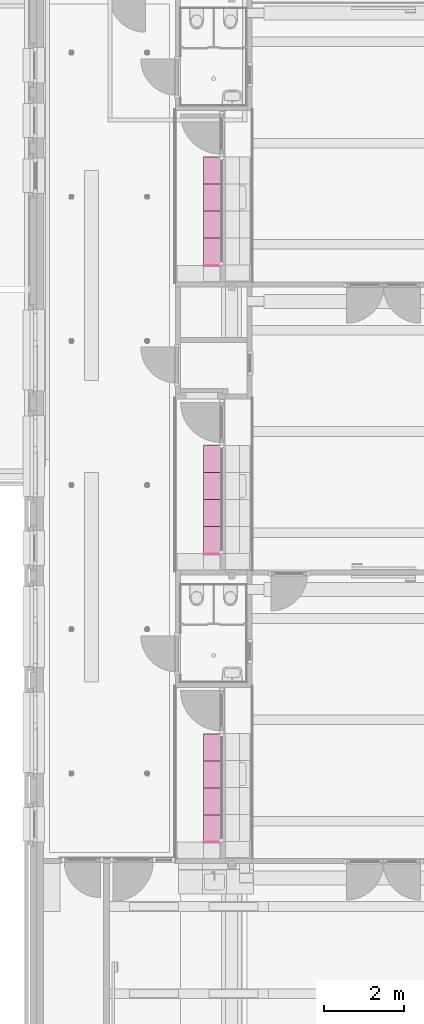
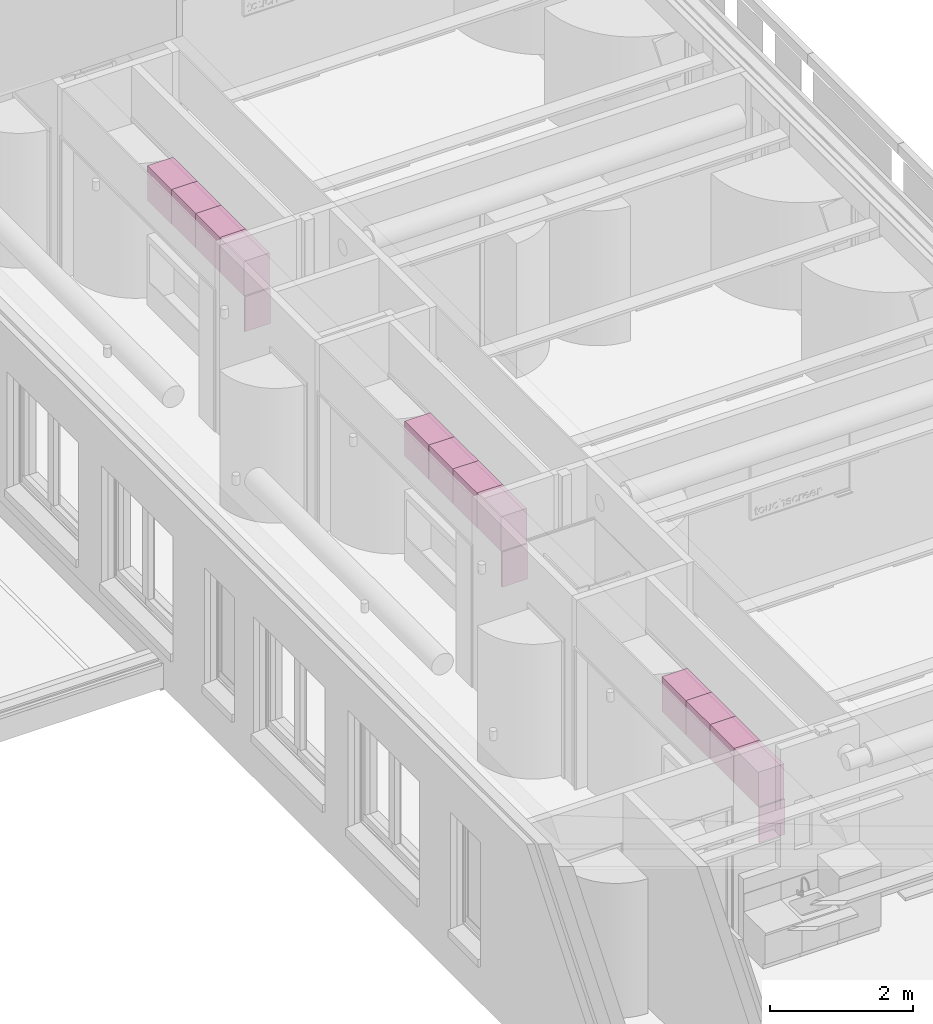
# One storey, part 93 of 128: 15 furnishings.
"""IFC2X3 building model written with IfcOpenShell, lengths in millimetres."""

from ifc_helpers import new_model, entity, si_unit, converted_unit, derived_unit, direction, frame, frame_2d, origin, origin_2d_with_axis, place, context, subcontext, project, spatial, rectangle, extrude, source, transform, mapped, material, type_object, type_shapes, element, save


model = new_model("IFC2X3")

# Units and contexts
model_context = context("Model", 3, precision=0.01, world=origin(), true_north=direction((6.123031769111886e-17, 1.0)))
body_context = subcontext(model_context, "Body", "Model", "MODEL_VIEW")
ifc_project = project(units=[si_unit("LENGTHUNIT", "METRE", prefix="MILLI"), si_unit("AREAUNIT", "SQUARE_METRE"), si_unit("VOLUMEUNIT", "CUBIC_METRE"), converted_unit("PLANEANGLEUNIT", "DEGREE", entity("IfcRatioMeasure", 0.017453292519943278), si_unit("PLANEANGLEUNIT", "RADIAN"), dimensions=[0, 0, 0, 0, 0, 0, 0]), si_unit("MASSUNIT", "GRAM", prefix="KILO"), derived_unit("MASSDENSITYUNIT", [(si_unit("MASSUNIT", "GRAM", prefix="KILO"), 1), (si_unit("LENGTHUNIT", "METRE"), -3)]), derived_unit("IONCONCENTRATIONUNIT", [(si_unit("MASSUNIT", "GRAM", prefix="KILO"), 1), (si_unit("LENGTHUNIT", "METRE"), -3)]), derived_unit("MOMENTOFINERTIAUNIT", [(si_unit("LENGTHUNIT", "METRE"), 4)]), si_unit("TIMEUNIT", "SECOND"), si_unit("FREQUENCYUNIT", "HERTZ"), si_unit("THERMODYNAMICTEMPERATUREUNIT", "DEGREE_CELSIUS"), derived_unit("THERMALTRANSMITTANCEUNIT", [(si_unit("MASSUNIT", "GRAM", prefix="KILO"), 1), (si_unit("THERMODYNAMICTEMPERATUREUNIT", "KELVIN"), -1), (si_unit("TIMEUNIT", "SECOND"), -3)]), derived_unit("THERMALCONDUCTANCEUNIT", [(si_unit("MASSUNIT", "GRAM", prefix="KILO"), 1), (si_unit("THERMODYNAMICTEMPERATUREUNIT", "KELVIN"), -1), (si_unit("TIMEUNIT", "SECOND"), -3), (si_unit("LENGTHUNIT", "METRE"), 1)]), derived_unit("VOLUMETRICFLOWRATEUNIT", [(si_unit("LENGTHUNIT", "METRE"), 3), (si_unit("TIMEUNIT", "SECOND"), -1)]), derived_unit("MASSFLOWRATEUNIT", [(si_unit("MASSUNIT", "GRAM", prefix="KILO"), 1), (si_unit("TIMEUNIT", "SECOND"), -1)]), derived_unit("ROTATIONALFREQUENCYUNIT", [(si_unit("TIMEUNIT", "SECOND"), -1)]), si_unit("ELECTRICCURRENTUNIT", "AMPERE"), si_unit("ELECTRICVOLTAGEUNIT", "VOLT"), si_unit("POWERUNIT", "WATT"), si_unit("FORCEUNIT", "NEWTON", prefix="KILO"), si_unit("ILLUMINANCEUNIT", "LUX"), si_unit("LUMINOUSFLUXUNIT", "LUMEN"), si_unit("LUMINOUSINTENSITYUNIT", "CANDELA"), derived_unit("USERDEFINED", [(si_unit("MASSUNIT", "GRAM", prefix="KILO"), -1), (si_unit("LENGTHUNIT", "METRE"), -2), (si_unit("TIMEUNIT", "SECOND"), 3), (si_unit("LUMINOUSFLUXUNIT", "LUMEN"), 1)]), derived_unit("USERDEFINED", [(si_unit("MASSUNIT", "GRAM", prefix="KILO"), 1), (si_unit("TIMEUNIT", "SECOND"), -3), (si_unit("LENGTHUNIT", "METRE"), 3), (si_unit("ELECTRICCURRENTUNIT", "AMPERE"), -2)]), derived_unit("SOUNDPOWERUNIT", [(si_unit("MASSUNIT", "GRAM", prefix="KILO"), 1), (si_unit("TIMEUNIT", "SECOND"), -3), (si_unit("LENGTHUNIT", "METRE"), 2)]), derived_unit("SOUNDPRESSUREUNIT", [(si_unit("MASSUNIT", "GRAM", prefix="KILO"), 1), (si_unit("LENGTHUNIT", "METRE"), -1), (si_unit("TIMEUNIT", "SECOND"), -2)]), derived_unit("LINEARVELOCITYUNIT", [(si_unit("LENGTHUNIT", "METRE"), 1), (si_unit("TIMEUNIT", "SECOND"), -1)]), si_unit("PRESSUREUNIT", "PASCAL"), derived_unit("USERDEFINED", [(si_unit("MASSUNIT", "GRAM", prefix="KILO"), 1), (si_unit("LENGTHUNIT", "METRE"), -2), (si_unit("TIMEUNIT", "SECOND"), -2)]), derived_unit("LINEARFORCEUNIT", [(si_unit("MASSUNIT", "GRAM", prefix="KILO"), 1), (si_unit("TIMEUNIT", "SECOND"), -2)]), derived_unit("PLANARFORCEUNIT", [(si_unit("MASSUNIT", "GRAM", prefix="KILO"), 1), (si_unit("LENGTHUNIT", "METRE"), -1), (si_unit("TIMEUNIT", "SECOND"), -2)]), derived_unit("SPECIFICHEATCAPACITYUNIT", [(si_unit("THERMODYNAMICTEMPERATUREUNIT", "KELVIN"), -1), (si_unit("LENGTHUNIT", "METRE"), 2), (si_unit("TIMEUNIT", "SECOND"), -2)]), derived_unit("HEATINGVALUEUNIT", [(si_unit("LENGTHUNIT", "METRE"), 2), (si_unit("TIMEUNIT", "SECOND"), -2)]), derived_unit("VAPORPERMEABILITYUNIT", [(si_unit("LENGTHUNIT", "METRE"), -1), (si_unit("TIMEUNIT", "SECOND"), 1)]), derived_unit("DYNAMICVISCOSITYUNIT", [(si_unit("MASSUNIT", "GRAM", prefix="KILO"), 1), (si_unit("TIMEUNIT", "SECOND"), -1), (si_unit("LENGTHUNIT", "METRE"), -1)]), derived_unit("THERMALEXPANSIONCOEFFICIENTUNIT", [(si_unit("THERMODYNAMICTEMPERATUREUNIT", "KELVIN"), -1)]), derived_unit("MODULUSOFELASTICITYUNIT", [(si_unit("MASSUNIT", "GRAM", prefix="KILO"), 1), (si_unit("LENGTHUNIT", "METRE"), -1), (si_unit("TIMEUNIT", "SECOND"), -2)]), derived_unit("ISOTHERMALMOISTURECAPACITYUNIT", [(si_unit("LENGTHUNIT", "METRE"), 3), (si_unit("MASSUNIT", "GRAM", prefix="KILO"), -1)]), derived_unit("MOISTUREDIFFUSIVITYUNIT", [(si_unit("TIMEUNIT", "SECOND"), -1), (si_unit("LENGTHUNIT", "METRE"), 2)])], contexts=[model_context])

# Site, building, storey, space
site_placement = place(None, frame((0.0, 300.0, 0.0)))
site = spatial("IfcSite", under=ifc_project, at=site_placement, Name="<Kadastrale nummers>", CompositionType="ELEMENT")
building_placement = place(site_placement, origin())
building = spatial("IfcBuilding", under=site, at=building_placement, CompositionType="ELEMENT")
storey_placement = place(building_placement, frame((0.0, 0.0, 3560.0000331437)))
storey = spatial("IfcBuildingStorey", under=building, at=storey_placement, Name="01 eerste verdieping", CompositionType="ELEMENT", Elevation=3560.0000331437)
space_1_placement = place(storey_placement, origin())
space_1 = spatial("IfcSpace", under=storey, at=space_1_placement, Name="1.21a", CompositionType="ELEMENT", InteriorOrExteriorSpace="INTERNAL")

# Furnishings
ifc_material = material(Name="ISR_HPL Kleur hout")
furniture_type_1 = type_object("IfcFurnitureType", Name="00_DAT Vaste inrichting Boven Keukenkasten:Bovenkast Gaderobe", material=ifc_material)
shared_shape_1 = source(origin(), body_context, "Body", "SweptSolid", [
    extrude(rectangle(XDim=415.0, YDim=675.0000000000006, at=origin_2d_with_axis()), frame((337.5000000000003, 207.5, 1800.0), z_axis=(0.0, 0.0, 1.0), x_axis=(0.0, -1.0, 0.0)), (0.0, 0.0, 1.0), 589.9999999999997),
])
type_shapes(furniture_type_1, [shared_shape_1])
for number, where, z_axis, x_axis, name in (
    (1, (41115.0, 24249.998623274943, 90.00000187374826), (0.0, 0.0, 1.0), (0.0, 1.0, 0.0), "00_DAT Vaste inrichting Boven Keukenkasten:Bovenkast Gaderobe"),
    (2, (41115.0, 25599.998623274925, 90.00000187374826), (0.0, 0.0, 1.0), (0.0, 1.0, 0.0), "00_DAT Vaste inrichting Boven Keukenkasten:Bovenkast Gaderobe"),
):
    element("IfcFurnishingElement", number, at=place(space_1_placement, frame(where, z_axis=z_axis, x_axis=x_axis)), inside=space_1, type_object=furniture_type_1, material=ifc_material, Name=name, ObjectType="00_DAT Vaste inrichting Boven Keukenkasten:Bovenkast Gaderobe", context=body_context, shape_type="MappedRepresentation", body=[
        mapped(shared_shape_1, transform((0.0, 0.0, 0.0), scale=1.0)),
    ])

# Space
space_2_placement = place(storey_placement, origin())
space_2 = spatial("IfcSpace", under=storey, at=space_2_placement, Name="1.22a", CompositionType="ELEMENT", InteriorOrExteriorSpace="INTERNAL")

# Furnishings
for number, where, z_axis, x_axis, name in (
    (3, (41115.0, 17049.99724655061, 90.00000187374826), (0.0, 0.0, 1.0), (0.0, 1.0, 0.0), "00_DAT Vaste inrichting Boven Keukenkasten:Bovenkast Gaderobe"),
    (4, (41115.0, 18399.997246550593, 90.00000187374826), (0.0, 0.0, 1.0), (0.0, 1.0, 0.0), "00_DAT Vaste inrichting Boven Keukenkasten:Bovenkast Gaderobe"),
):
    element("IfcFurnishingElement", number, at=place(space_2_placement, frame(where, z_axis=z_axis, x_axis=x_axis)), inside=space_2, type_object=furniture_type_1, material=ifc_material, Name=name, ObjectType="00_DAT Vaste inrichting Boven Keukenkasten:Bovenkast Gaderobe", context=body_context, shape_type="MappedRepresentation", body=[
        mapped(shared_shape_1, transform((0.0, 0.0, 0.0), scale=1.0)),
    ])

# Space
space_3_placement = place(storey_placement, origin())
space_3 = spatial("IfcSpace", under=storey, at=space_3_placement, Name="1.23a", CompositionType="ELEMENT", InteriorOrExteriorSpace="INTERNAL")

# Furnishings
for number, where, z_axis, x_axis, name in (
    (5, (41115.0, 9849.99724655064, 90.00000187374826), (0.0, 0.0, 1.0), (0.0, 1.0, 0.0), "00_DAT Vaste inrichting Boven Keukenkasten:Bovenkast Gaderobe"),
    (6, (41115.0, 11199.997246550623, 90.00000187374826), (0.0, 0.0, 1.0), (0.0, 1.0, 0.0), "00_DAT Vaste inrichting Boven Keukenkasten:Bovenkast Gaderobe"),
):
    element("IfcFurnishingElement", number, at=place(space_3_placement, frame(where, z_axis=z_axis, x_axis=x_axis)), inside=space_3, type_object=furniture_type_1, material=ifc_material, Name=name, ObjectType="00_DAT Vaste inrichting Boven Keukenkasten:Bovenkast Gaderobe", context=body_context, shape_type="MappedRepresentation", body=[
        mapped(shared_shape_1, transform((0.0, 0.0, 0.0), scale=1.0)),
    ])
furniture_type_2 = type_object("IfcFurnitureType", Name="00_DAT Vaste inrichting Boven Keukenkasten:Bovenkast Gaderobe", material=ifc_material)
shared_shape_2 = source(origin(), body_context, "Body", "SweptSolid", [
    extrude(rectangle(XDim=415.0, YDim=675.0000000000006, at=origin_2d_with_axis()), frame((337.5000000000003, 207.5, 1800.0), z_axis=(0.0, 0.0, 1.0), x_axis=(0.0, -1.0, 0.0)), (0.0, 0.0, 1.0), 589.9999999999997),
])
type_shapes(furniture_type_2, [shared_shape_2])
for number, where, z_axis, x_axis, name in (
    (7, (41115.0, 24924.99862327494, 90.00000187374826), (0.0, 0.0, 1.0), (0.0, 1.0, 0.0), "00_DAT Vaste inrichting Boven Keukenkasten:Bovenkast Gaderobe"),
    (8, (41114.39999999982, 26274.99862327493, 90.00000187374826), (0.0, 0.0, 1.0), (0.0, 1.0, 0.0), "00_DAT Vaste inrichting Boven Keukenkasten:Bovenkast Gaderobe"),
):
    element("IfcFurnishingElement", number, at=place(space_1_placement, frame(where, z_axis=z_axis, x_axis=x_axis)), inside=space_1, type_object=furniture_type_2, material=ifc_material, Name=name, ObjectType="00_DAT Vaste inrichting Boven Keukenkasten:Bovenkast Gaderobe", context=body_context, shape_type="MappedRepresentation", body=[
        mapped(shared_shape_2, transform((0.0, 0.0, 0.0), scale=1.0)),
    ])
for number, where, z_axis, x_axis, name in (
    (9, (41115.0, 17724.997246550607, 90.00000187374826), (0.0, 0.0, 1.0), (0.0, 1.0, 0.0), "00_DAT Vaste inrichting Boven Keukenkasten:Bovenkast Gaderobe"),
    (10, (41114.399999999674, 19074.997246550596, 90.00000187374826), (0.0, 0.0, 1.0), (0.0, 1.0, 0.0), "00_DAT Vaste inrichting Boven Keukenkasten:Bovenkast Gaderobe"),
):
    element("IfcFurnishingElement", number, at=place(space_2_placement, frame(where, z_axis=z_axis, x_axis=x_axis)), inside=space_2, type_object=furniture_type_2, material=ifc_material, Name=name, ObjectType="00_DAT Vaste inrichting Boven Keukenkasten:Bovenkast Gaderobe", context=body_context, shape_type="MappedRepresentation", body=[
        mapped(shared_shape_2, transform((0.0, 0.0, 0.0), scale=1.0)),
    ])
for number, where, z_axis, x_axis, name in (
    (11, (41115.0, 10524.997246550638, 90.00000187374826), (0.0, 0.0, 1.0), (0.0, 1.0, 0.0), "00_DAT Vaste inrichting Boven Keukenkasten:Bovenkast Gaderobe"),
    (12, (41114.399999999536, 11874.997246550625, 90.00000187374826), (0.0, 0.0, 1.0), (0.0, 1.0, 0.0), "00_DAT Vaste inrichting Boven Keukenkasten:Bovenkast Gaderobe"),
):
    element("IfcFurnishingElement", number, at=place(space_3_placement, frame(where, z_axis=z_axis, x_axis=x_axis)), inside=space_3, type_object=furniture_type_2, material=ifc_material, Name=name, ObjectType="00_DAT Vaste inrichting Boven Keukenkasten:Bovenkast Gaderobe", context=body_context, shape_type="MappedRepresentation", body=[
        mapped(shared_shape_2, transform((0.0, 0.0, 0.0), scale=1.0)),
    ])
furniture_type_3 = type_object("IfcFurnitureType", Name="Plaat4:Plaat", material=ifc_material)
shared_shape_3 = source(origin(), body_context, "Body", "SweptSolid", [
    extrude(rectangle(XDim=23.31060952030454, YDim=415.0000000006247, at=frame_2d((-2.1662671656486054e-12, -4.334310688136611e-12), x_axis=(1.0, 0.0))), frame((40907.50000000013, 24238.343318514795, 4850.00003501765), z_axis=(0.0, 0.0, 1.0), x_axis=(0.0, -1.0, 0.0)), (0.0, 0.0, 1.0), 600.0),
])
type_shapes(furniture_type_3, [shared_shape_3])
furnishing_1_placement = place(space_1_placement, frame((0.0, 0.0, -3560.0000331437)))
element("IfcFurnishingElement", 13, at=furnishing_1_placement, inside=space_1, type_object=furniture_type_3, material=ifc_material, Name="Plaat4:Plaat", ObjectType="Plaat4:Plaat", context=body_context, shape_type="MappedRepresentation", body=[
    mapped(shared_shape_3, transform((0.0, 0.0, 0.0), scale=1.0)),
])
furniture_type_4 = type_object("IfcFurnitureType", Name="Plaat5:Plaat", material=ifc_material)
shared_shape_4 = source(origin(), body_context, "Body", "SweptSolid", [
    extrude(rectangle(XDim=23.31060952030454, YDim=415.0000000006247, at=frame_2d((-2.1662671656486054e-12, -4.334310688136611e-12), x_axis=(1.0, 0.0))), frame((40907.499999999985, 17038.341941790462, 4850.00003501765), z_axis=(0.0, 0.0, 1.0), x_axis=(0.0, -1.0, 0.0)), (0.0, 0.0, 1.0), 600.0),
])
type_shapes(furniture_type_4, [shared_shape_4])
furnishing_2_placement = place(space_2_placement, frame((0.0, 0.0, -3560.0000331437)))
element("IfcFurnishingElement", 14, at=furnishing_2_placement, inside=space_2, type_object=furniture_type_4, material=ifc_material, Name="Plaat5:Plaat", ObjectType="Plaat5:Plaat", context=body_context, shape_type="MappedRepresentation", body=[
    mapped(shared_shape_4, transform((0.0, 0.0, 0.0), scale=1.0)),
])
furniture_type_5 = type_object("IfcFurnitureType", Name="Plaat6:Plaat", material=ifc_material)
shared_shape_5 = source(origin(), body_context, "Body", "SweptSolid", [
    extrude(rectangle(XDim=23.310609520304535, YDim=415.0000000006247, at=frame_2d((0.0, -4.334310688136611e-12), x_axis=(1.0, 0.0))), frame((40907.49999999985, 9838.341941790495, 4850.00003501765), z_axis=(0.0, 0.0, 1.0), x_axis=(0.0, -1.0, 0.0)), (0.0, 0.0, 1.0), 600.0),
])
type_shapes(furniture_type_5, [shared_shape_5])
furnishing_3_placement = place(space_3_placement, frame((0.0, 0.0, -3560.0000331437)))
element("IfcFurnishingElement", 15, at=furnishing_3_placement, inside=space_3, type_object=furniture_type_5, material=ifc_material, Name="Plaat6:Plaat", ObjectType="Plaat6:Plaat", context=body_context, shape_type="MappedRepresentation", body=[
    mapped(shared_shape_5, transform((0.0, 0.0, 0.0), scale=1.0)),
])

save(model, "model.ifc")
